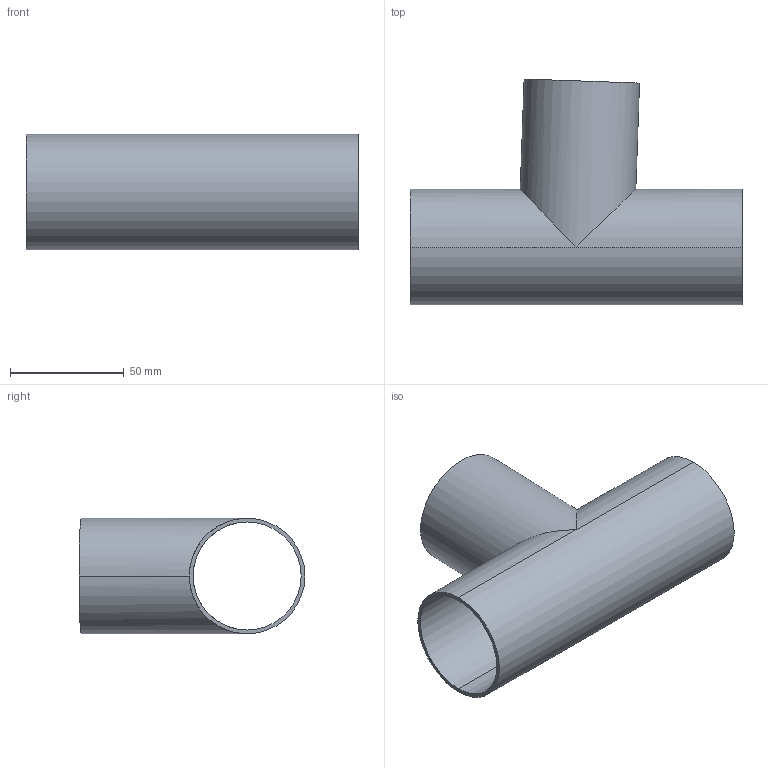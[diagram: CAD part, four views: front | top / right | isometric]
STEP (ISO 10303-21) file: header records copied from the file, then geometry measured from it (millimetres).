
FILE_DESCRIPTION (( 'STEP AP214' ), '1' );
FILE_NAME ('TE7WWW886L2.0-...STEP', '2016-05-23T04:56:41', ( 'eran' ), ( '' ), 'SwSTEP 2.0', 'SolidWorks 2016', '' );
FILE_SCHEMA (( 'AUTOMOTIVE_DESIGN' ));
Length unit declared in the file: millimetre
Products named in the file (1): TE7WWW886L2.0-..
Bounding box: 146 x 99.29 x 50.8 mm (x, y, z)
Volume: 47829.6 mm3; surface area: 59688 mm2
Topology: 2 solids, 2 shells, 15 faces, 36 edges, 24 vertices
Faces by surface type: cylinder 12, plane 3
Entity records: 761 total; most frequent: CARTESIAN_POINT 372, ORIENTED_EDGE 72, DIRECTION 68, EDGE_CURVE 36, AXIS2_PLACEMENT_3D 28, VERTEX_POINT 24, EDGE_LOOP 20, FACE_OUTER_BOUND 15
